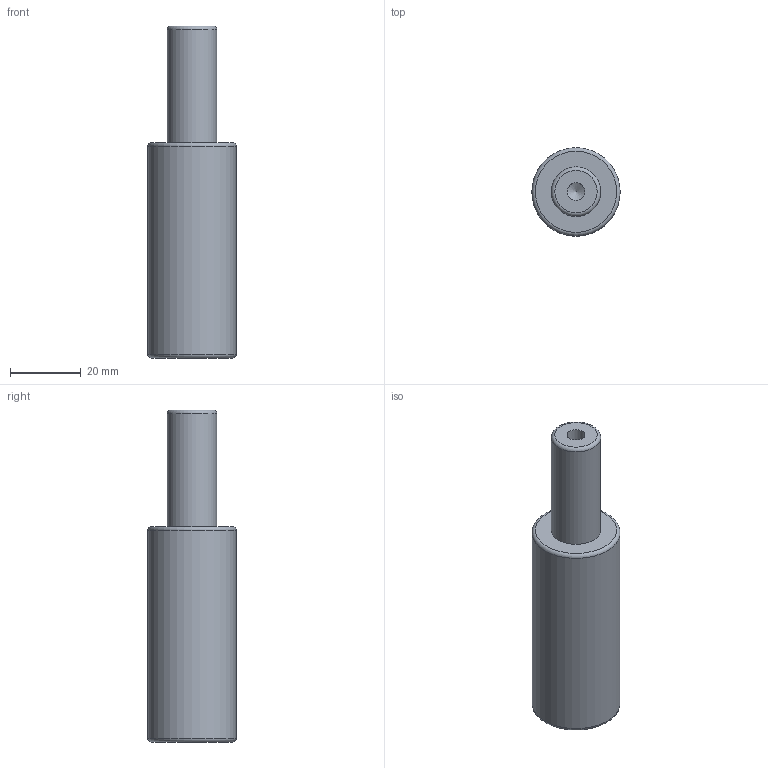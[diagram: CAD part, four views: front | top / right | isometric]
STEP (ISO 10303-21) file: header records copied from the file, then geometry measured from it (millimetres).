
FILE_DESCRIPTION(/* description */ (''),/* implementation_level */ '2;1');
FILE_NAME(/* name */ 'NV5-SMLX.25x32.stp',/* time_stamp */ '2018-08-31T16:08:38+02:00',/* author */ (''),/* organization */ (''),/* preprocessor_version */ 'ST-DEVELOPER v16',/* originating_system */ 'SIEMENS PLM Software NX 10.0',/* authorisation */ '');
FILE_SCHEMA (('AUTOMOTIVE_DESIGN { 1 0 10303 214 3 1 1 1 }'));
Length unit declared in the file: millimetre
Products named in the file (1): NV5-SMLX.25x32
Bounding box: 25 x 25 x 94 mm (x, y, z)
Volume: 34529.4 mm3; surface area: 7488.6 mm2
Topology: 1 solids, 1 shells, 12 faces, 24 edges, 15 vertices
Faces by surface type: cylinder 4, torus 3, plane 3, cone 2
Full cylindrical faces by diameter (mm): 5 x2, 14 x1, 25 x1
Entity records: 266 total; most frequent: DIRECTION 48, CARTESIAN_POINT 37, FACE_BOUND 24, AXIS2_PLACEMENT_3D 24, EDGE_LOOP 22, ORIENTED_EDGE 22, VERTEX_POINT 13, ADVANCED_FACE 12
